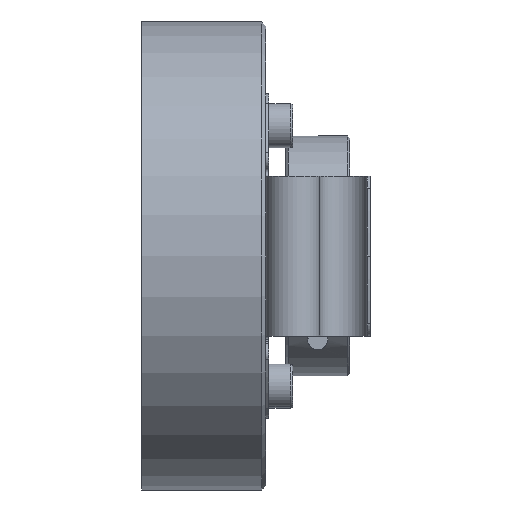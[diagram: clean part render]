
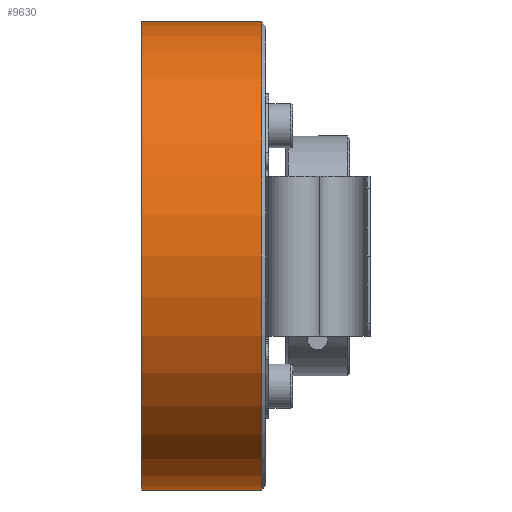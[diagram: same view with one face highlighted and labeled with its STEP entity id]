
A CAD part, left-side view. The second image highlights one B-rep face of the part: STEP entity #9630.
In plain terms, the highlighted cylindrical face has radius 29.25 mm (diameter 58.5 mm), a partial arc.
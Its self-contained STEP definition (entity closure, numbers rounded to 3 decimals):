
#366 = AXIS2_PLACEMENT_3D ( 'NONE', #7593, #4265, #2563 ) ;
#1170 = VERTEX_POINT ( 'NONE', #14624 ) ;
#1650 = VERTEX_POINT ( 'NONE', #19911 ) ;
#1882 = CYLINDRICAL_SURFACE ( 'NONE', #366, 29.25 ) ;
#2563 = DIRECTION ( 'NONE',  ( 0., 0., 1. ) ) ;
#3549 = DIRECTION ( 'NONE',  ( 0., 1., 0. ) ) ;
#4265 = DIRECTION ( 'NONE',  ( 0., 1., 0. ) ) ;
#4370 = VERTEX_POINT ( 'NONE', #11437 ) ;
#5075 = AXIS2_PLACEMENT_3D ( 'NONE', #19309, #3549, #8765 ) ;
#5995 = CARTESIAN_POINT ( 'NONE',  ( 0., 32.8, -29.25 ) ) ;
#6112 = EDGE_CURVE ( 'NONE', #1170, #4370, #15524, .T. ) ;
#6604 = ORIENTED_EDGE ( 'NONE', *, *, #12356, .T. ) ;
#7593 = CARTESIAN_POINT ( 'NONE',  ( 0., 32.8, 0. ) ) ;
#8283 = EDGE_CURVE ( 'NONE', #1650, #17111, #13074, .T. ) ;
#8533 = EDGE_CURVE ( 'NONE', #4370, #17111, #9289, .T. ) ;
#8765 = DIRECTION ( 'NONE',  ( 0., 0., -1. ) ) ;
#9289 = CIRCLE ( 'NONE', #15220, 29.25 ) ;
#9310 = ORIENTED_EDGE ( 'NONE', *, *, #8283, .T. ) ;
#9449 = CARTESIAN_POINT ( 'NONE',  ( 0., 32.8, 29.25 ) ) ;
#9630 = ADVANCED_FACE ( 'NONE', ( #16980 ), #1882, .T. ) ;
#10173 = DIRECTION ( 'NONE',  ( 0., 1., 0. ) ) ;
#11150 = DIRECTION ( 'NONE',  ( 0., 1., 0. ) ) ;
#11437 = CARTESIAN_POINT ( 'NONE',  ( 0., 15.5, -29.25 ) ) ;
#11816 = CARTESIAN_POINT ( 'NONE',  ( 0., 15.5, 0. ) ) ;
#12356 = EDGE_CURVE ( 'NONE', #1170, #1650, #16912, .T. ) ;
#13074 = LINE ( 'NONE', #9449, #18200 ) ;
#14624 = CARTESIAN_POINT ( 'NONE',  ( 0., 0.5, -29.25 ) ) ;
#15214 = EDGE_LOOP ( 'NONE', ( #19226, #6604, #9310, #19524 ) ) ;
#15220 = AXIS2_PLACEMENT_3D ( 'NONE', #11816, #10173, #15988 ) ;
#15266 = VECTOR ( 'NONE', #16268, 1000. ) ;
#15524 = LINE ( 'NONE', #5995, #15266 ) ;
#15988 = DIRECTION ( 'NONE',  ( 0., 0., 1. ) ) ;
#16268 = DIRECTION ( 'NONE',  ( 0., 1., 0. ) ) ;
#16912 = CIRCLE ( 'NONE', #5075, 29.25 ) ;
#16980 = FACE_OUTER_BOUND ( 'NONE', #15214, .T. ) ;
#17111 = VERTEX_POINT ( 'NONE', #19677 ) ;
#18200 = VECTOR ( 'NONE', #11150, 1000. ) ;
#19226 = ORIENTED_EDGE ( 'NONE', *, *, #6112, .F. ) ;
#19309 = CARTESIAN_POINT ( 'NONE',  ( 0., 0.5, 0. ) ) ;
#19524 = ORIENTED_EDGE ( 'NONE', *, *, #8533, .F. ) ;
#19677 = CARTESIAN_POINT ( 'NONE',  ( 0., 15.5, 29.25 ) ) ;
#19911 = CARTESIAN_POINT ( 'NONE',  ( 0., 0.5, 29.25 ) ) ;
